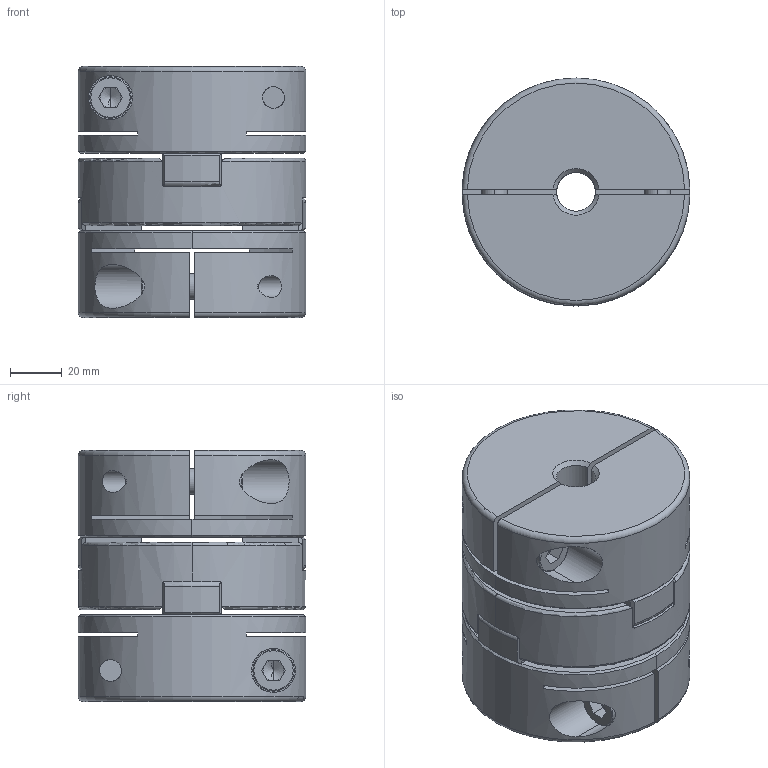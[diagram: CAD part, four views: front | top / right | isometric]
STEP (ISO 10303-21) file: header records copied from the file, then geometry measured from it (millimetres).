
FILE_DESCRIPTION (( 'STEP AP203' ), '1' );
FILE_NAME ('SOH-90C-15X50_203.STEP', '2013-02-08T06:58:48', ( '' ), ( '' ), 'SwSTEP 2.0', 'SolidWorks 2012', '' );
FILE_SCHEMA (( 'CONFIG_CONTROL_DESIGN' ));
Length unit declared in the file: millimetre
Products named in the file (1): SOH-90C-15X50_203
Bounding box: 88 x 88 x 97 mm (x, y, z)
Volume: 430174.1 mm3; surface area: 90257 mm2
Topology: 1 solids, 1 shells, 329 faces, 888 edges, 546 vertices
Faces by surface type: plane 155, cylinder 92, torus 41, cone 41
Entity records: 11512 total; most frequent: CARTESIAN_POINT 3216, ORIENTED_EDGE 1760, DIRECTION 1715, EDGE_CURVE 880, AXIS2_PLACEMENT_3D 651, VERTEX_POINT 546, LINE 413, VECTOR 413
